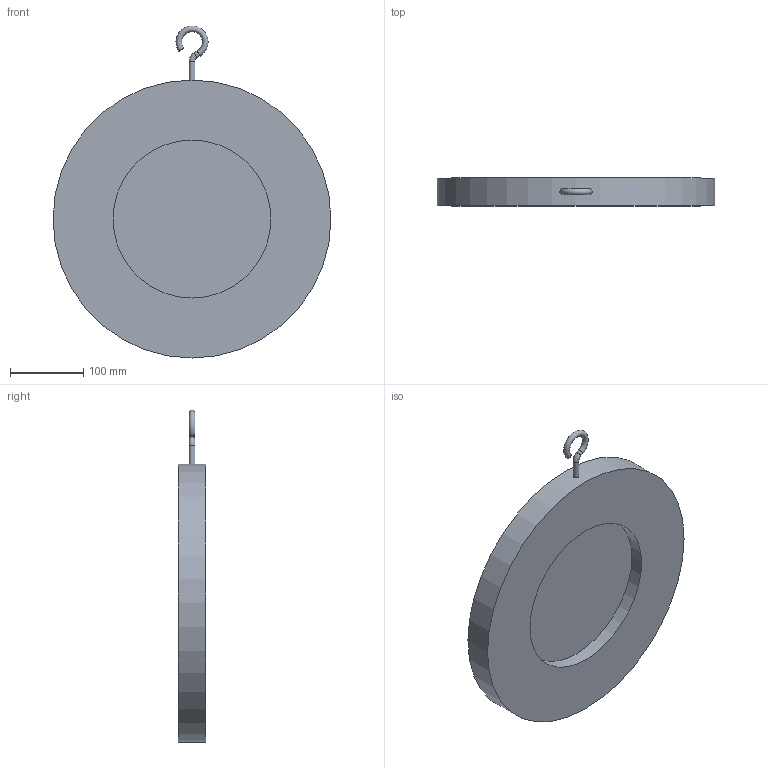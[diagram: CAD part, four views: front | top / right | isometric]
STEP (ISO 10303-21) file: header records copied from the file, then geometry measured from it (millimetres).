
FILE_DESCRIPTION(('STEP AP203'), '1');
FILE_NAME('孰囡囗 钺疣蝽 钿眍耱忸瘅囹 戾骠豚眦邂 008C.Y DN300', '', ('UNSPECIFIED'), ('UNSPECIFIED'), 'ASCON STEP Converter 1.6', 'ASCON Math Kernel', '');
FILE_SCHEMA(('CONFIG_CONTROL_DESIGN'));
Length unit declared in the file: millimetre
Bounding box: 380 x 38 x 453.97 mm (x, y, z)
Volume: 2712426.9 mm3; surface area: 308862.3 mm2
Topology: 1 solids, 1 shells, 32 faces, 72 edges, 47 vertices
Faces by surface type: plane 17, cylinder 12, torus 2, cone 1
Full cylindrical faces by diameter (mm): 8 x2, 216 x1, 380 x1
Entity records: 1395 total; most frequent: CARTESIAN_POINT 396, DIRECTION 152, ORIENTED_EDGE 130, EDGE_CURVE 65, AXIS2_PLACEMENT_3D 59, VERTEX_POINT 47, EDGE_LOOP 44, LINE 34
